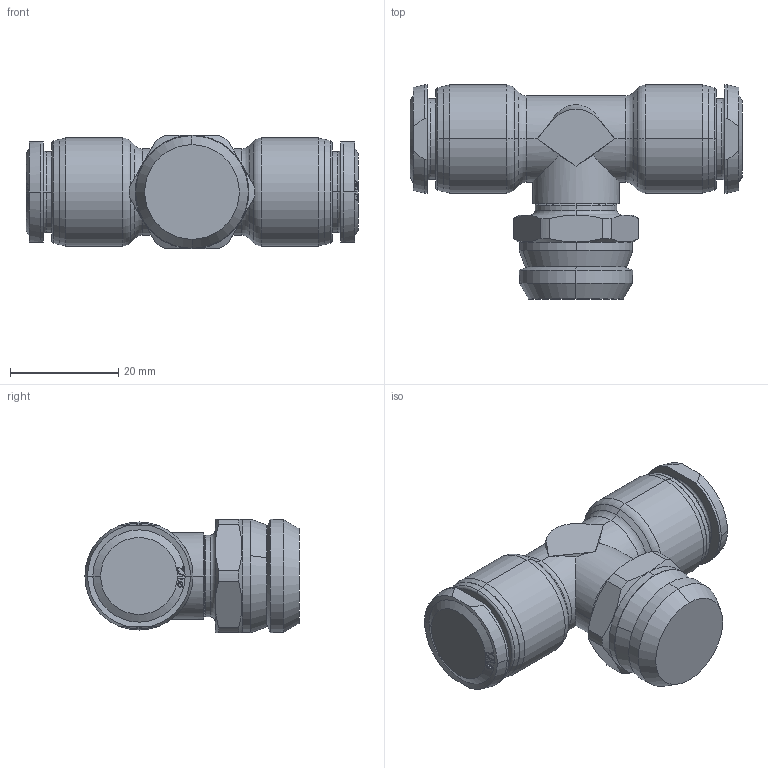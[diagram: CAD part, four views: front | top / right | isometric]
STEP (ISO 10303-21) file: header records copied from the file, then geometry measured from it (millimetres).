
FILE_DESCRIPTION (( 'STEP AP203' ), '1' );
FILE_NAME ('8521100016A.step', '2012-10-31T14:30:21', ( '' ), ( '' ), 'SwSTEP 2.0', 'SolidWorks 2012', '' );
FILE_SCHEMA (( 'CONFIG_CONTROL_DESIGN' ));
Length unit declared in the file: millimetre
Products named in the file (1): 8521100016A
Bounding box: 61.4 x 39.6 x 21.03 mm (x, y, z)
Volume: 22675.3 mm3; surface area: 6511.1 mm2
Topology: 1 solids, 1 shells, 228 faces, 546 edges, 344 vertices
Faces by surface type: bspline 84, cone 58, plane 35, cylinder 29, torus 22
Entity records: 9903 total; most frequent: CARTESIAN_POINT 5273, ORIENTED_EDGE 1092, DIRECTION 688, EDGE_CURVE 546, VERTEX_POINT 344, AXIS2_PLACEMENT_3D 299, B_SPLINE_CURVE_WITH_KNOTS 286, EDGE_LOOP 252
